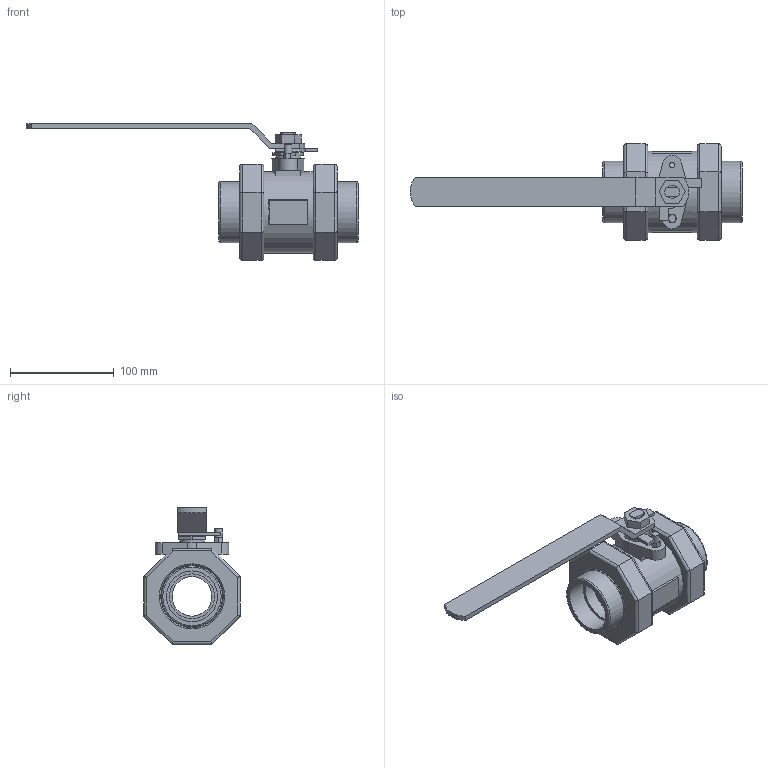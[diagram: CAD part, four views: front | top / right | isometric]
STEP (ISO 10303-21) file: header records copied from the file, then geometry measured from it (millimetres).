
FILE_DESCRIPTION((' '),'2;1');
FILE_NAME('N:\Technical Support\Private\Jomar Valve CAD\Ball Valves\CS and SS\2002N-DUE\1.5 S-CS[SS]-2002N-DUE (101-997 [101-987])FusionCopy.stp.step','2017-01-24T13:04:46',(' '),(' '),' ','ACIS',' ');
FILE_SCHEMA(('CONFIG_CONTROL_DESIGN'));
Length unit declared in the file: inch
Products named in the file (15): N:\Technical Support\Private\Jomar Valve CAD\Ball Valves\CS and SS\2002N-DUE\1.5 S-CS[SS]-2002N-DUE (101-997 [101-987])FusionCopy.stp.step; Body1; Body2; Body3; Body4; Body5; Body6; Body7; Body8; Body9; Body10; Body11; Body12; Body13; Body14
Assembly tree (14 placements, depth 2):
  N:\Technical Support\Private\Jomar Valve CAD\Ball Valves\CS and SS\2002N-DUE\1.5 S-CS[SS]-2002N-DUE (101-997 [101-987])FusionCopy.stp.step
    Body1
    Body2
    Body3
    Body4
    Body5
    Body6
    Body7
    Body8
    Body9
    Body10
    Body11
    Body12
    Body13
    Body14
Bounding box: 320.27 x 92.84 x 132.12 mm (x, y, z)
Volume: 539173.5 mm3; surface area: 141938 mm2
Topology: 14 solids, 14 shells, 202 faces, 432 edges, 276 vertices
Faces by surface type: plane 93, bspline 54, cylinder 52, cone 2, torus 1
Full cylindrical faces by diameter (mm): 5.207 x1, 6.223 x1, 7.315 x1, 12.395 x1, 17.018 x1, 23.698 x1, 38.1 x2, 43.434 x1, 49.022 x1, 52.324 x2, 58.801 x2, 58.953 x1, 59.944 x1, 60.274 x1, 66.548 x1, 66.98 x1, 67.894 x1, 78.41 x1, 80.518 x1, 82.22 x1
Entity records: 7774 total; most frequent: CARTESIAN_POINT 1477, DIRECTION 877, ORIENTED_EDGE 772, EDGE_CURVE 386, AXIS2_PLACEMENT_3D 316, EDGE_LOOP 285, VERTEX_POINT 269, VECTOR 245
